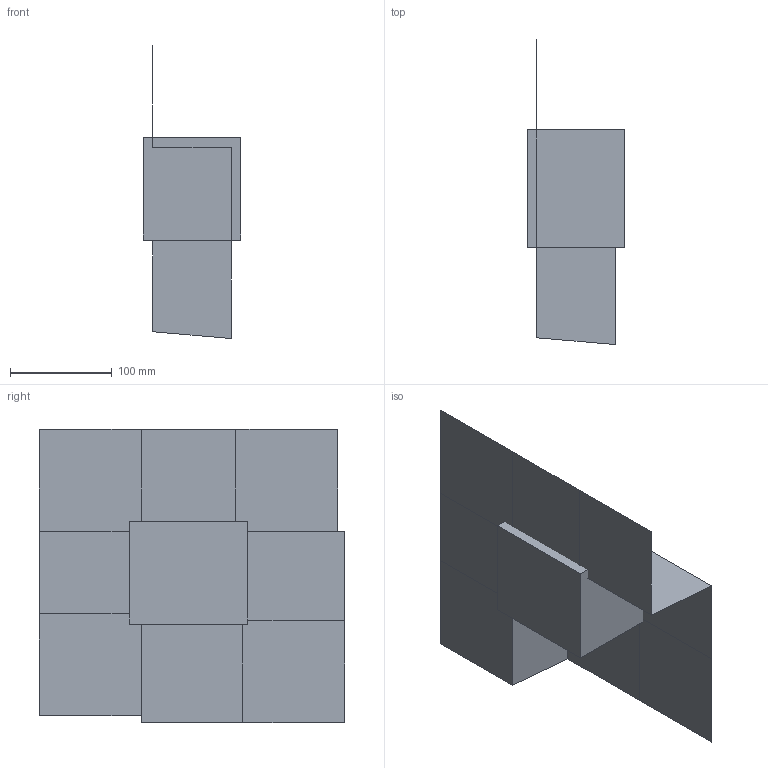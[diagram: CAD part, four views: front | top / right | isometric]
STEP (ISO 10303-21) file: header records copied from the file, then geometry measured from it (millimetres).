
FILE_DESCRIPTION(('CATIA V5 STEP Exchange'),'2;1');
FILE_NAME('C:\_Andres\UNIVERSIDAD\IQS\ASIGNATURAS\DAO\EXF\EXF-15161c\1original\Esteva_Esteve_Ej02-moldes_v6.stp','2016-03-04T15:45:33+00:00',('none'),('none'),'CATIA Version 5 Release 20 SP 1 (IN-10)','CATIA V5 STEP AP203','none');
FILE_SCHEMA(('CONFIG_CONTROL_DESIGN'));
Length unit declared in the file: millimetre
Products named in the file (1): Esteva_Esteve_Ej02-moldes_v6
Bounding box: 96 x 299.52 x 287.52 mm (x, y, z)
Volume: 2391866.9 mm3; surface area: 309217.6 mm2
Topology: 3 solids, 7 shells, 45 faces, 118 edges, 83 vertices
Faces by surface type: plane 41, cylinder 4
Entity records: 1101 total; most frequent: ORIENTED_EDGE 198, CARTESIAN_POINT 179, DIRECTION 147, EDGE_CURVE 83, VECTOR 73, LINE 73, VERTEX_POINT 56, EDGE_LOOP 49
